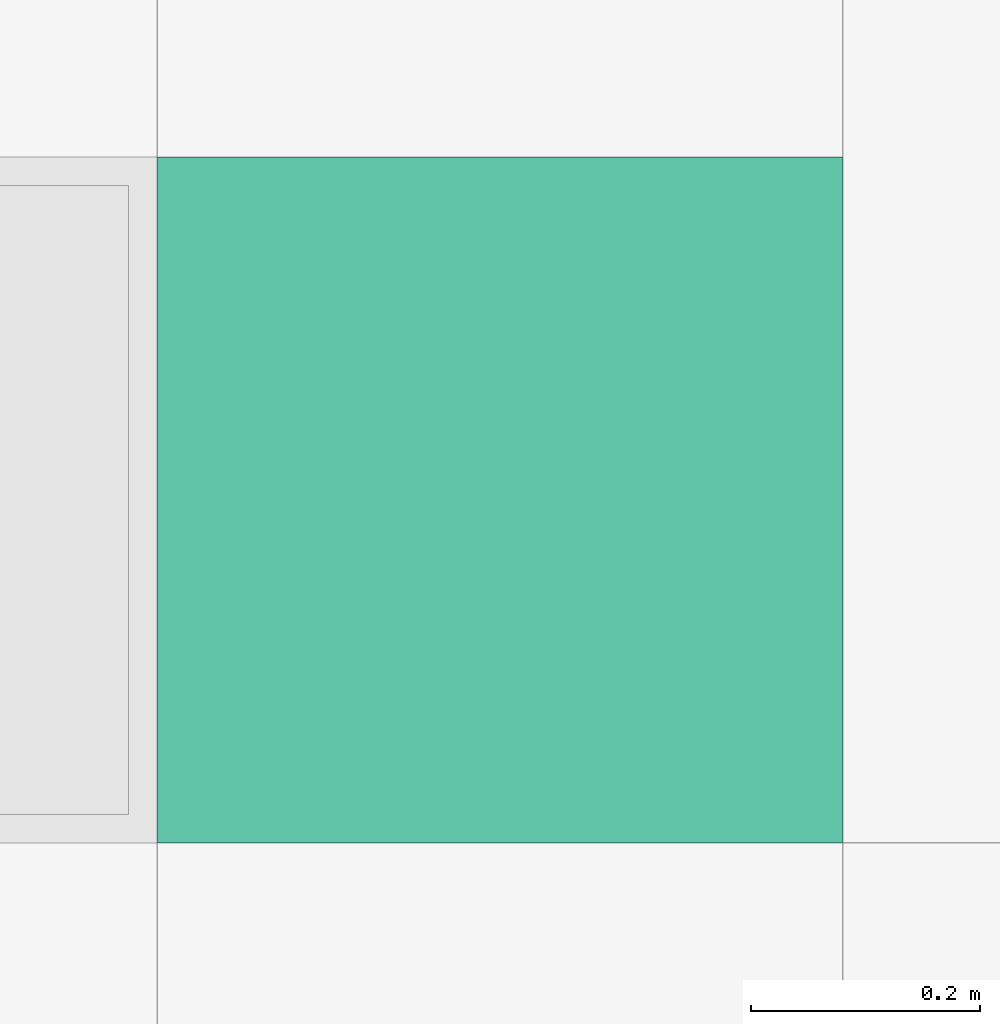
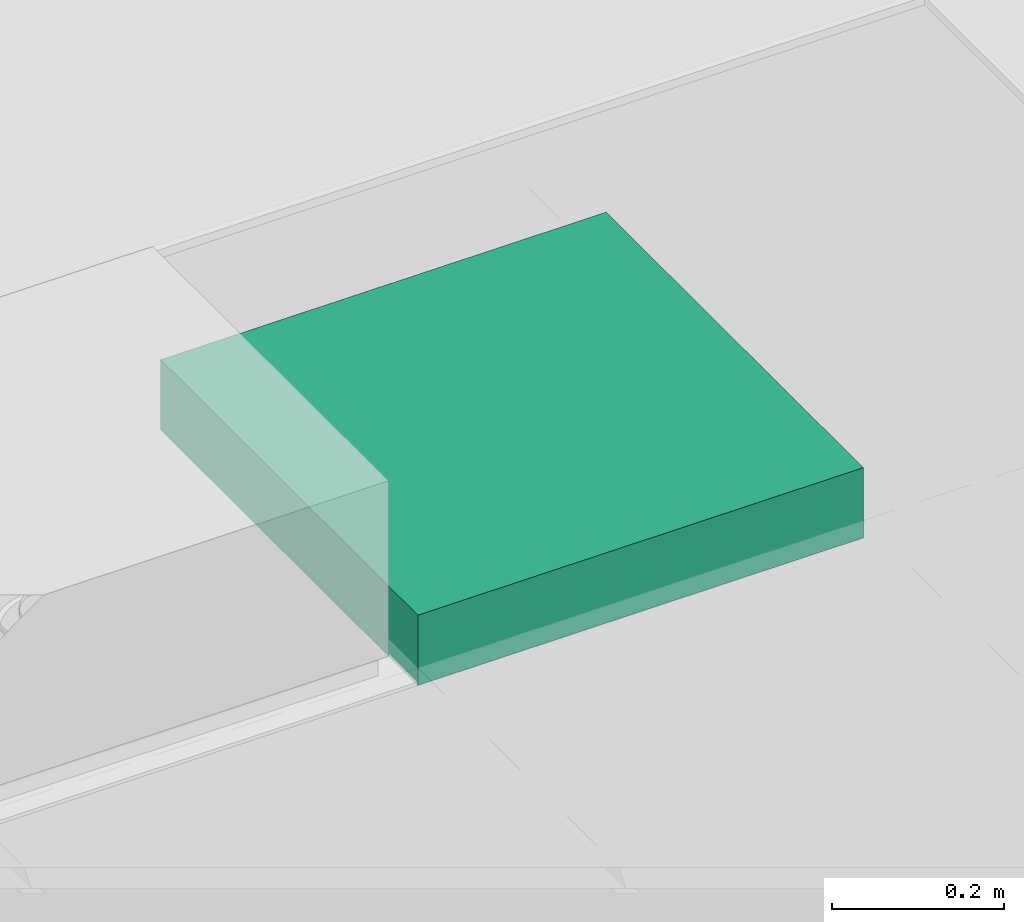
# One storey, part 299 of 347: 1 flow terminal.
"""IFC2X3 building model written with IfcOpenShell, lengths in millimetres."""

import ifcopenshell
import ifcopenshell.guid

model = None  # the IFC model being written
_history = None  # IfcOwnerHistory: only IFC2X3 demands one
_inside = {}  # id of a spatial element -> (the spatial element, [elements in it])
_under = {}  # id of a project, library or spatial element -> (it, [spatial elements below it])
_declared = {}  # id of a project -> (the project, [libraries it declares])
_typed = {}  # id of a type object -> (the type object, [elements of that type])
_made_of = {}  # id of a material, layer set ... -> (it, [elements and type objects made of it])


def new_model(schema):
    """Start an empty IFC model of exactly this schema.

    Asked for "IFC4X3", IfcOpenShell would pick the latest addendum, in which some entities
    have other attributes; the version numbers below select the first issue.
    IFC2X3 requires an IfcOwnerHistory on every rooted entity: one is made here for all.
    """
    global model, _history
    if schema == "IFC4X3":
        model = ifcopenshell.file(schema_version=(4, 3, 0, 0))
    else:
        model = ifcopenshell.file(schema=schema)
    _inside.clear()
    _under.clear()
    _declared.clear()
    _typed.clear()
    _made_of.clear()
    _history = None
    if model.schema == "IFC2X3":
        org = make("IfcOrganization", Name="unknown")
        user = make(
            "IfcPersonAndOrganization",
            ThePerson=make("IfcPerson", FamilyName="unknown"),
            TheOrganization=org,
        )
        app = make(
            "IfcApplication",
            ApplicationDeveloper=org,
            Version="unknown",
            ApplicationFullName="unknown",
            ApplicationIdentifier="unknown",
        )
        _history = make(
            "IfcOwnerHistory",
            OwningUser=user,
            OwningApplication=app,
            ChangeAction="ADDED",
            CreationDate=0,
        )
    return model


def make(cls, **values):
    """One entity of the class cls with the attributes given. An attribute that is None is left unset."""
    return model.create_entity(
        cls, **{name: value for name, value in values.items() if value is not None}
    )


def entity(cls, *values):
    """Any entity or typed value of the class cls, its attributes in the order of the schema. None: left unset."""
    e = model.create_entity(cls)
    for i, value in enumerate(values):
        if value is not None:
            e[i] = value
    return e


def rooted(cls, **values):
    """An entity with a GlobalId (a new one), such as an element, a storey or a relation."""
    return make(cls, GlobalId=ifcopenshell.guid.new(), OwnerHistory=_history, **values)


def si_unit(unit_type, name, prefix=None):
    """IfcSIUnit, for example si_unit("LENGTHUNIT", "METRE", prefix="MILLI")."""
    return make("IfcSIUnit", UnitType=unit_type, Prefix=prefix, Name=name)


def converted_unit(unit_type, name, factor, base, dimensions=None, offset=None):
    """IfcConversionBasedUnit, such as the inch: factor (a typed value) times the base unit."""
    return make(
        "IfcConversionBasedUnit"
        if offset is None
        else "IfcConversionBasedUnitWithOffset",
        ConversionOffset=offset,
        Dimensions=None
        if dimensions is None
        else entity("IfcDimensionalExponents", *dimensions),
        UnitType=unit_type,
        Name=name,
        ConversionFactor=make(
            "IfcMeasureWithUnit", ValueComponent=factor, UnitComponent=base
        ),
    )


def derived_unit(unit_type, elements):
    """IfcDerivedUnit: a product of units, each with its exponent."""
    return make(
        "IfcDerivedUnit",
        Elements=[
            make("IfcDerivedUnitElement", Unit=unit, Exponent=power)
            for unit, power in elements
        ],
        UnitType=unit_type,
    )


def money_unit(currency):
    """IfcMonetaryUnit."""
    return make("IfcMonetaryUnit", Currency=currency)


def assignment(units):
    """IfcUnitAssignment: the units of a project."""
    return None if units is None else make("IfcUnitAssignment", Units=units)


def point(xyz):
    """IfcCartesianPoint."""
    return None if xyz is None else make("IfcCartesianPoint", Coordinates=xyz)


def direction(xyz):
    """IfcDirection."""
    return None if xyz is None else make("IfcDirection", DirectionRatios=xyz)


def frame(location, z_axis=None, x_axis=None):
    """IfcAxis2Placement3D, a coordinate frame: its origin and axes. An axis left out is left unset."""
    return make(
        "IfcAxis2Placement3D",
        Location=point(location),
        Axis=direction(z_axis),
        RefDirection=direction(x_axis),
    )


def origin_with_axes():
    """The frame at (0, 0, 0) with the z axis (0, 0, 1) and the x axis (1, 0, 0) written out."""
    return frame((0.0, 0.0, 0.0), z_axis=(0.0, 0.0, 1.0), x_axis=(1.0, 0.0, 0.0))


def place(relative_to, where):
    """IfcLocalPlacement: puts the frame where relative to a parent placement (None: the world)."""
    return make(
        "IfcLocalPlacement", PlacementRelTo=relative_to, RelativePlacement=where
    )


def context(
    kind, dimensions, precision=None, world=None, true_north=None, identifier=None
):
    """IfcGeometricRepresentationContext, for example the 3D "Model" context."""
    return make(
        "IfcGeometricRepresentationContext",
        ContextIdentifier=identifier,
        ContextType=kind,
        CoordinateSpaceDimension=dimensions,
        Precision=precision,
        WorldCoordinateSystem=world,
        TrueNorth=true_north,
    )


def subcontext(parent, identifier, kind, view, scale=None):
    """IfcGeometricRepresentationSubContext, for example "Body" below "Model"."""
    return make(
        "IfcGeometricRepresentationSubContext",
        ContextIdentifier=identifier,
        ContextType=kind,
        ParentContext=parent,
        TargetScale=scale,
        TargetView=view,
    )


def project(units=None, contexts=None):
    """IfcProject with its units and contexts."""
    return rooted(
        "IfcProject",
        Name="project",
        RepresentationContexts=contexts,
        UnitsInContext=assignment(units),
    )


def spatial(cls, under=None, at=None, **own):
    """A site, building, storey or space (cls), placed at a placement, below another one or the project."""
    s = rooted(cls, ObjectPlacement=at, **own)
    if under is not None:
        _under.setdefault(under.id(), (under, []))[1].append(s)
    return s


def faces_of(points, faces, orient=None, outer=None):
    """IfcFace entities. A face is a list of loops; a loop is a list of indices into points, from 0.

    orient and outer hold one flag for each loop. By default every Orientation is true, the
    first loop of a face is its IfcFaceOuterBound and the others are IfcFaceBound.
    """
    made = []
    for i, loops in enumerate(faces):
        bounds = []
        for j, loop in enumerate(loops):
            is_outer = j == 0 if outer is None else outer[i][j]
            bounds.append(
                make(
                    "IfcFaceOuterBound" if is_outer else "IfcFaceBound",
                    Bound=make("IfcPolyLoop", Polygon=[points[k] for k in loop]),
                    Orientation=True if orient is None else orient[i][j],
                )
            )
        made.append(make("IfcFace", Bounds=bounds))
    return made


def open_shell(faces, orient=None, outer=None):
    """The faces of one IfcOpenShell. surface_model builds it on its shared points."""
    return ("IfcOpenShell", faces, orient, outer)


def faceted_brep(points, faces, orient=None, outer=None, voids=None):
    """IfcFacetedBrep: a solid bounded by flat faces; with voids (closed shells), ...WithVoids."""
    shared = [point(p) for p in points]
    hull = make("IfcClosedShell", CfsFaces=faces_of(shared, faces, orient, outer))
    if voids is None:
        return make("IfcFacetedBrep", Outer=hull)
    return make(
        "IfcFacetedBrepWithVoids",
        Outer=hull,
        Voids=[
            make(cls, CfsFaces=faces_of(shared, fs, o, b)) for cls, fs, o, b in voids
        ],
    )


def surface_model(cls, points, shells):
    """IfcFaceBasedSurfaceModel or IfcShellBasedSurfaceModel (cls): surfaces that need not close."""
    shared = [point(p) for p in points]
    made = [make(c, CfsFaces=faces_of(shared, fs, o, b)) for c, fs, o, b in shells]
    if cls == "IfcFaceBasedSurfaceModel":
        return make(cls, FbsmFaces=made)
    return make(cls, SbsmBoundary=made)


def shape(context_of_items, identifier, shape_type, items):
    """IfcShapeRepresentation: the items that make up one representation, for example the "Body"."""
    return make(
        "IfcShapeRepresentation",
        ContextOfItems=context_of_items,
        RepresentationIdentifier=identifier,
        RepresentationType=shape_type,
        Items=items,
    )


def source(mapping_origin, context_of_items, identifier, shape_type, items):
    """IfcRepresentationMap: a shape defined once, which mapped items show again and again."""
    return make(
        "IfcRepresentationMap",
        MappingOrigin=mapping_origin,
        MappedRepresentation=shape(context_of_items, identifier, shape_type, items),
    )


def transform(
    local_origin,
    x_axis=None,
    y_axis=None,
    z_axis=None,
    scale=None,
    scale2=None,
    scale3=None,
    uniform=True,
):
    """IfcCartesianTransformationOperator3D, or its non-uniform kind. x_axis, y_axis, z_axis: its Axis1, 2, 3."""
    if uniform:
        return make(
            "IfcCartesianTransformationOperator3D",
            Axis1=direction(x_axis),
            Axis2=direction(y_axis),
            LocalOrigin=point(local_origin),
            Scale=scale,
            Axis3=direction(z_axis),
        )
    return make(
        "IfcCartesianTransformationOperator3DnonUniform",
        Axis1=direction(x_axis),
        Axis2=direction(y_axis),
        LocalOrigin=point(local_origin),
        Scale=scale,
        Axis3=direction(z_axis),
        Scale2=scale2,
        Scale3=scale3,
    )


def mapped(mapping_source, mapping_target):
    """IfcMappedItem: shows the shape of a source again, moved by a transform."""
    return make(
        "IfcMappedItem", MappingSource=mapping_source, MappingTarget=mapping_target
    )


def made_of(thing, what):
    """Note that an element or type object is made of a material, layer set ...; save() writes the relation."""
    if what is not None:
        _made_of.setdefault(what.id(), (what, []))[1].append(thing)
    return thing


def type_object(cls, material=None, **own):
    """A type object (cls), such as IfcWallType, which elements share."""
    return made_of(rooted(cls, **own), material)


def type_shapes(of_type, sources):
    """Give a type object the sources (RepresentationMaps) that its elements show as mapped items."""
    of_type.RepresentationMaps = sources


def element(
    cls,
    number,
    at=None,
    inside=None,
    cuts=None,
    type_object=None,
    material=None,
    context=None,
    identifier="Body",
    shape_type=None,
    held_by="IfcProductDefinitionShape",
    body=None,
    shapes=None,
    **own,
):
    """One element of the class cls, such as IfcWall. Its Tag is "e" and its number.

    at: its placement. inside: the storey or other place that contains it. cuts: it is an
    opening in that element (IfcRelVoidsElement). A single representation is given by context,
    identifier, shape_type and body (its items); several are given by shapes. held_by: the class
    of the entity that holds the representations. save() writes the other relations.
    """
    e = rooted(cls, Tag="e%d" % number, ObjectPlacement=at, **own)
    if body is not None:
        shapes = [shape(context, identifier, shape_type, body)]
    if shapes is not None:
        e.Representation = make(held_by, Representations=shapes)
    if inside is not None:
        _inside.setdefault(inside.id(), (inside, []))[1].append(e)
    if cuts is not None:
        rooted(
            "IfcRelVoidsElement", RelatingBuildingElement=cuts, RelatedOpeningElement=e
        )
    if type_object is not None:
        _typed.setdefault(type_object.id(), (type_object, []))[1].append(e)
    return made_of(e, material)


def aggregate(whole, parts):
    """IfcRelAggregates: a whole, such as a stair, and the parts it consists of."""
    return rooted("IfcRelAggregates", RelatingObject=whole, RelatedObjects=parts)


def save(model, path):
    """Write the relations noted so far, then the file.

    IfcRelAggregates (storeys below a building ...), IfcRelContainedInSpatialStructure (elements
    in a storey), IfcRelDefinesByType, IfcRelAssociatesMaterial and IfcRelDeclares: one each for
    every whole, place, type object, material and project.
    """
    for whole, parts in _under.values():
        aggregate(whole, parts)
    for where, things in _inside.values():
        rooted(
            "IfcRelContainedInSpatialStructure",
            RelatedElements=things,
            RelatingStructure=where,
        )
    for kind, things in _typed.values():
        rooted("IfcRelDefinesByType", RelatedObjects=things, RelatingType=kind)
    for what, things in _made_of.values():
        rooted("IfcRelAssociatesMaterial", RelatedObjects=things, RelatingMaterial=what)
    for by, libraries in _declared.values():
        rooted("IfcRelDeclares", RelatingContext=by, RelatedDefinitions=libraries)
    model.write(path)


model = new_model("IFC2X3")

# Units and contexts
model_context = context("Model", 3, precision=0.01, world=origin_with_axes(), true_north=direction((0.0, 1.0)))
plan_context = context("Plan", 3, precision=0.01, world=origin_with_axes(), true_north=direction((0.0, 1.0)))
body_context = subcontext(model_context, "Body", "Model", "MODEL_VIEW")
ifc_project = project(units=[si_unit("LENGTHUNIT", "METRE", prefix="MILLI"), si_unit("AREAUNIT", "SQUARE_METRE"), si_unit("VOLUMEUNIT", "CUBIC_METRE"), converted_unit("PLANEANGLEUNIT", "DEGREE", entity("IfcPlaneAngleMeasure", 0.0174532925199), si_unit("PLANEANGLEUNIT", "RADIAN"), dimensions=[0, 0, 0, 0, 0, 0, 0]), money_unit("EUR"), converted_unit("TIMEUNIT", "Year", entity("IfcTimeMeasure", 31556926.0), si_unit("TIMEUNIT", "SECOND"), dimensions=[0, 0, 1, 0, 0, 0, 0]), si_unit("MASSUNIT", "GRAM", prefix="KILO"), si_unit("THERMODYNAMICTEMPERATUREUNIT", "DEGREE_CELSIUS"), si_unit("LUMINOUSINTENSITYUNIT", "LUMEN"), si_unit("ENERGYUNIT", "JOULE", prefix="MEGA"), derived_unit("THERMALCONDUCTANCEUNIT", [(si_unit("POWERUNIT", "WATT"), 1), (si_unit("LENGTHUNIT", "METRE"), -1), (si_unit("THERMODYNAMICTEMPERATUREUNIT", "KELVIN"), -1)]), derived_unit("SPECIFICHEATCAPACITYUNIT", [(si_unit("ENERGYUNIT", "JOULE"), 1), (si_unit("MASSUNIT", "GRAM", prefix="KILO"), -1), (si_unit("THERMODYNAMICTEMPERATUREUNIT", "KELVIN"), -1)]), derived_unit("MASSDENSITYUNIT", [(si_unit("MASSUNIT", "GRAM", prefix="KILO"), 1), (si_unit("VOLUMEUNIT", "CUBIC_METRE"), -1)])], contexts=[model_context, plan_context])

# Site, building, storey
site_placement = place(None, origin_with_axes())
site = spatial("IfcSite", under=ifc_project, at=site_placement, Name="Site", CompositionType="ELEMENT")
building_placement = place(site_placement, origin_with_axes())
building = spatial("IfcBuilding", under=site, at=building_placement, Name="Naam gebouw", CompositionType="ELEMENT")
storey_placement = place(building_placement, origin_with_axes())
storey = spatial("IfcBuildingStorey", under=building, at=storey_placement, Name="begane grond", CompositionType="ELEMENT", Elevation=0.0)

# Flow terminal
lamp_type = type_object("IfcLampType", Name="TL plafond 25", PredefinedType="NOTDEFINED")
shared_shape = source(origin_with_axes(), body_context, "Body", "SurfaceModel", [
    faceted_brep([(0.0, 0.0, -100.0), (0.0, 0.0, 0.0), (-600.0, 0.0, 0.0), (-600.0, 0.0, -100.0), (0.0, 600.0, -100.0), (0.0, 600.0, 0.0), (-600.0, 600.0, 0.0), (-40.0, 40.0, 0.0), (-560.0, 40.0, 0.0), (-560.0, 560.0, 0.0), (-40.0, 560.0, 0.0), (-600.0, 600.0, -100.0), (-40.0, 40.0, -100.0), (-40.0, 560.0, -100.0), (-560.0, 560.0, -100.0), (-560.0, 40.0, -100.0)], [[[0, 1, 2, 3]], [[4, 5, 1, 0]], [[1, 5, 6, 2], [7, 8, 9, 10]], [[3, 2, 6, 11]], [[0, 3, 11, 4], [12, 13, 14, 15]], [[11, 6, 5, 4]], [[15, 8, 7, 12]], [[14, 9, 8, 15]], [[13, 10, 9, 14]], [[12, 7, 10, 13]]]),
    faceted_brep([(-40.0, 40.0, -16.3333333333), (-40.0, 40.0, 0.0), (-560.0, 40.0, 0.0), (-560.0, 40.0, -16.3333333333), (-40.0, 560.0, -16.3333333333), (-40.0, 560.0, 0.0), (-560.0, 560.0, 0.0), (-560.0, 560.0, -16.3333333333)], [[[0, 1, 2, 3]], [[4, 5, 1, 0]], [[1, 5, 6, 2]], [[3, 2, 6, 7]], [[0, 3, 7, 4]], [[7, 6, 5, 4]]]),
    surface_model("IfcShellBasedSurfaceModel", [(-559.0, 41.0, -100.0), (-559.0, 559.0, -100.0), (-40.0, 559.0, -100.0), (-40.0, 41.0, -100.0)], [open_shell([[[0, 1, 2, 3]]])]),
    faceted_brep([(-40.0, 40.0, -100.0), (-40.0, 40.0, -60.0), (-560.0, 40.0, -60.0), (-560.0, 40.0, -100.0), (-40.0, 560.0, -100.0), (-40.0, 560.0, -60.0), (-560.0, 560.0, -60.0), (-41.0, 41.0, -60.0), (-559.0, 41.0, -60.0), (-559.0, 559.0, -60.0), (-41.0, 559.0, -60.0), (-560.0, 560.0, -100.0), (-41.0, 41.0, -100.0), (-41.0, 559.0, -100.0), (-559.0, 559.0, -100.0), (-559.0, 41.0, -100.0)], [[[0, 1, 2, 3]], [[4, 5, 1, 0]], [[1, 5, 6, 2], [7, 8, 9, 10]], [[3, 2, 6, 11]], [[0, 3, 11, 4], [12, 13, 14, 15]], [[11, 6, 5, 4]], [[15, 8, 7, 12]], [[14, 9, 8, 15]], [[13, 10, 9, 14]], [[12, 7, 10, 13]]]),
    faceted_brep([(-40.0, 144.0, -48.3333333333), (-560.0, 144.0, -48.3333333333), (-560.0, 149.740251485, -47.191526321), (-40.0, 149.740251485, -47.191526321), (-40.0, 138.259748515, -47.191526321), (-560.0, 138.259748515, -47.191526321), (-560.0, 133.393398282, -43.9399350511), (-560.0, 130.141807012, -39.0735848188), (-560.0, 129.0, -33.3333333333), (-560.0, 130.141807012, -27.5930818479), (-560.0, 133.393398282, -22.7267316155), (-560.0, 138.259748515, -19.4751403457), (-560.0, 144.0, -18.3333333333), (-560.0, 149.740251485, -19.4751403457), (-560.0, 154.606601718, -22.7267316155), (-560.0, 157.858192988, -27.5930818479), (-560.0, 159.0, -33.3333333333), (-560.0, 157.858192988, -39.0735848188), (-560.0, 154.606601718, -43.9399350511), (-560.0, 144.0, -46.3333333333), (-560.0, 148.974884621, -45.343767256), (-560.0, 153.192388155, -42.5257214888), (-560.0, 156.010433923, -38.3082179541), (-560.0, 157.0, -33.3333333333), (-560.0, 156.010433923, -28.3584487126), (-560.0, 153.192388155, -24.1409451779), (-560.0, 148.974884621, -21.3228994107), (-560.0, 144.0, -20.3333333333), (-560.0, 139.025115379, -21.3228994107), (-560.0, 134.807611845, -24.1409451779), (-560.0, 131.989566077, -28.3584487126), (-560.0, 131.0, -33.3333333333), (-560.0, 131.989566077, -38.3082179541), (-560.0, 134.807611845, -42.5257214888), (-560.0, 139.025115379, -45.343767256), (-40.0, 154.606601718, -43.9399350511), (-40.0, 157.858192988, -39.0735848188), (-40.0, 159.0, -33.3333333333), (-40.0, 157.858192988, -27.5930818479), (-40.0, 154.606601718, -22.7267316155), (-40.0, 149.740251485, -19.4751403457), (-40.0, 144.0, -18.3333333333), (-40.0, 138.259748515, -19.4751403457), (-40.0, 133.393398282, -22.7267316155), (-40.0, 130.141807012, -27.5930818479), (-40.0, 129.0, -33.3333333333), (-40.0, 130.141807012, -39.0735848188), (-40.0, 133.393398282, -43.9399350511), (-40.0, 144.0, -46.3333333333), (-40.0, 139.025115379, -45.343767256), (-40.0, 134.807611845, -42.5257214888), (-40.0, 131.989566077, -38.3082179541), (-40.0, 131.0, -33.3333333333), (-40.0, 131.989566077, -28.3584487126), (-40.0, 134.807611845, -24.1409451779), (-40.0, 139.025115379, -21.3228994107), (-40.0, 144.0, -20.3333333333), (-40.0, 148.974884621, -21.3228994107), (-40.0, 153.192388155, -24.1409451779), (-40.0, 156.010433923, -28.3584487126), (-40.0, 157.0, -33.3333333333), (-40.0, 156.010433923, -38.3082179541), (-40.0, 153.192388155, -42.5257214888), (-40.0, 148.974884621, -45.343767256)], [[[0, 1, 2, 3]], [[4, 5, 1, 0]], [[1, 5, 6, 7, 8, 9, 10, 11, 12, 13, 14, 15, 16, 17, 18, 2], [19, 20, 21, 22, 23, 24, 25, 26, 27, 28, 29, 30, 31, 32, 33, 34]], [[3, 2, 18, 35]], [[0, 3, 35, 36, 37, 38, 39, 40, 41, 42, 43, 44, 45, 46, 47, 4], [48, 49, 50, 51, 52, 53, 54, 55, 56, 57, 58, 59, 60, 61, 62, 63]], [[47, 6, 5, 4]], [[46, 7, 6, 47]], [[45, 8, 7, 46]], [[44, 9, 8, 45]], [[43, 10, 9, 44]], [[42, 11, 10, 43]], [[41, 12, 11, 42]], [[40, 13, 12, 41]], [[39, 14, 13, 40]], [[38, 15, 14, 39]], [[37, 16, 15, 38]], [[36, 17, 16, 37]], [[35, 18, 17, 36]], [[63, 20, 19, 48]], [[62, 21, 20, 63]], [[61, 22, 21, 62]], [[60, 23, 22, 61]], [[59, 24, 23, 60]], [[58, 25, 24, 59]], [[57, 26, 25, 58]], [[56, 27, 26, 57]], [[55, 28, 27, 56]], [[54, 29, 28, 55]], [[53, 30, 29, 54]], [[52, 31, 30, 53]], [[51, 32, 31, 52]], [[50, 33, 32, 51]], [[49, 34, 33, 50]], [[48, 19, 34, 49]]]),
    faceted_brep([(-40.0, 248.0, -48.3333333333), (-560.0, 248.0, -48.3333333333), (-560.0, 253.740251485, -47.191526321), (-40.0, 253.740251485, -47.191526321), (-40.0, 242.259748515, -47.191526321), (-560.0, 242.259748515, -47.191526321), (-560.0, 237.393398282, -43.9399350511), (-560.0, 234.141807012, -39.0735848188), (-560.0, 233.0, -33.3333333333), (-560.0, 234.141807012, -27.5930818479), (-560.0, 237.393398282, -22.7267316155), (-560.0, 242.259748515, -19.4751403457), (-560.0, 248.0, -18.3333333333), (-560.0, 253.740251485, -19.4751403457), (-560.0, 258.606601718, -22.7267316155), (-560.0, 261.858192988, -27.5930818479), (-560.0, 263.0, -33.3333333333), (-560.0, 261.858192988, -39.0735848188), (-560.0, 258.606601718, -43.9399350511), (-560.0, 248.0, -46.3333333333), (-560.0, 252.974884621, -45.343767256), (-560.0, 257.192388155, -42.5257214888), (-560.0, 260.010433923, -38.3082179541), (-560.0, 261.0, -33.3333333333), (-560.0, 260.010433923, -28.3584487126), (-560.0, 257.192388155, -24.1409451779), (-560.0, 252.974884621, -21.3228994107), (-560.0, 248.0, -20.3333333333), (-560.0, 243.025115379, -21.3228994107), (-560.0, 238.807611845, -24.1409451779), (-560.0, 235.989566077, -28.3584487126), (-560.0, 235.0, -33.3333333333), (-560.0, 235.989566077, -38.3082179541), (-560.0, 238.807611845, -42.5257214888), (-560.0, 243.025115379, -45.343767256), (-40.0, 258.606601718, -43.9399350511), (-40.0, 261.858192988, -39.0735848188), (-40.0, 263.0, -33.3333333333), (-40.0, 261.858192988, -27.5930818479), (-40.0, 258.606601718, -22.7267316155), (-40.0, 253.740251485, -19.4751403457), (-40.0, 248.0, -18.3333333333), (-40.0, 242.259748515, -19.4751403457), (-40.0, 237.393398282, -22.7267316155), (-40.0, 234.141807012, -27.5930818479), (-40.0, 233.0, -33.3333333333), (-40.0, 234.141807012, -39.0735848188), (-40.0, 237.393398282, -43.9399350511), (-40.0, 248.0, -46.3333333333), (-40.0, 243.025115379, -45.343767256), (-40.0, 238.807611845, -42.5257214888), (-40.0, 235.989566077, -38.3082179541), (-40.0, 235.0, -33.3333333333), (-40.0, 235.989566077, -28.3584487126), (-40.0, 238.807611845, -24.1409451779), (-40.0, 243.025115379, -21.3228994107), (-40.0, 248.0, -20.3333333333), (-40.0, 252.974884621, -21.3228994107), (-40.0, 257.192388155, -24.1409451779), (-40.0, 260.010433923, -28.3584487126), (-40.0, 261.0, -33.3333333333), (-40.0, 260.010433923, -38.3082179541), (-40.0, 257.192388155, -42.5257214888), (-40.0, 252.974884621, -45.343767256)], [[[0, 1, 2, 3]], [[4, 5, 1, 0]], [[1, 5, 6, 7, 8, 9, 10, 11, 12, 13, 14, 15, 16, 17, 18, 2], [19, 20, 21, 22, 23, 24, 25, 26, 27, 28, 29, 30, 31, 32, 33, 34]], [[3, 2, 18, 35]], [[0, 3, 35, 36, 37, 38, 39, 40, 41, 42, 43, 44, 45, 46, 47, 4], [48, 49, 50, 51, 52, 53, 54, 55, 56, 57, 58, 59, 60, 61, 62, 63]], [[47, 6, 5, 4]], [[46, 7, 6, 47]], [[45, 8, 7, 46]], [[44, 9, 8, 45]], [[43, 10, 9, 44]], [[42, 11, 10, 43]], [[41, 12, 11, 42]], [[40, 13, 12, 41]], [[39, 14, 13, 40]], [[38, 15, 14, 39]], [[37, 16, 15, 38]], [[36, 17, 16, 37]], [[35, 18, 17, 36]], [[63, 20, 19, 48]], [[62, 21, 20, 63]], [[61, 22, 21, 62]], [[60, 23, 22, 61]], [[59, 24, 23, 60]], [[58, 25, 24, 59]], [[57, 26, 25, 58]], [[56, 27, 26, 57]], [[55, 28, 27, 56]], [[54, 29, 28, 55]], [[53, 30, 29, 54]], [[52, 31, 30, 53]], [[51, 32, 31, 52]], [[50, 33, 32, 51]], [[49, 34, 33, 50]], [[48, 19, 34, 49]]]),
    faceted_brep([(-40.0, 352.0, -48.3333333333), (-560.0, 352.0, -48.3333333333), (-560.0, 357.740251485, -47.191526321), (-40.0, 357.740251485, -47.191526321), (-40.0, 346.259748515, -47.191526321), (-560.0, 346.259748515, -47.191526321), (-560.0, 341.393398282, -43.9399350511), (-560.0, 338.141807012, -39.0735848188), (-560.0, 337.0, -33.3333333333), (-560.0, 338.141807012, -27.5930818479), (-560.0, 341.393398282, -22.7267316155), (-560.0, 346.259748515, -19.4751403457), (-560.0, 352.0, -18.3333333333), (-560.0, 357.740251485, -19.4751403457), (-560.0, 362.606601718, -22.7267316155), (-560.0, 365.858192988, -27.5930818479), (-560.0, 367.0, -33.3333333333), (-560.0, 365.858192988, -39.0735848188), (-560.0, 362.606601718, -43.9399350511), (-560.0, 352.0, -46.3333333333), (-560.0, 356.974884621, -45.343767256), (-560.0, 361.192388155, -42.5257214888), (-560.0, 364.010433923, -38.3082179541), (-560.0, 365.0, -33.3333333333), (-560.0, 364.010433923, -28.3584487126), (-560.0, 361.192388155, -24.1409451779), (-560.0, 356.974884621, -21.3228994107), (-560.0, 352.0, -20.3333333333), (-560.0, 347.025115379, -21.3228994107), (-560.0, 342.807611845, -24.1409451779), (-560.0, 339.989566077, -28.3584487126), (-560.0, 339.0, -33.3333333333), (-560.0, 339.989566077, -38.3082179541), (-560.0, 342.807611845, -42.5257214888), (-560.0, 347.025115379, -45.343767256), (-40.0, 362.606601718, -43.9399350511), (-40.0, 365.858192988, -39.0735848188), (-40.0, 367.0, -33.3333333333), (-40.0, 365.858192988, -27.5930818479), (-40.0, 362.606601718, -22.7267316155), (-40.0, 357.740251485, -19.4751403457), (-40.0, 352.0, -18.3333333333), (-40.0, 346.259748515, -19.4751403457), (-40.0, 341.393398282, -22.7267316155), (-40.0, 338.141807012, -27.5930818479), (-40.0, 337.0, -33.3333333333), (-40.0, 338.141807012, -39.0735848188), (-40.0, 341.393398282, -43.9399350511), (-40.0, 352.0, -46.3333333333), (-40.0, 347.025115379, -45.343767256), (-40.0, 342.807611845, -42.5257214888), (-40.0, 339.989566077, -38.3082179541), (-40.0, 339.0, -33.3333333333), (-40.0, 339.989566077, -28.3584487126), (-40.0, 342.807611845, -24.1409451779), (-40.0, 347.025115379, -21.3228994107), (-40.0, 352.0, -20.3333333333), (-40.0, 356.974884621, -21.3228994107), (-40.0, 361.192388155, -24.1409451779), (-40.0, 364.010433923, -28.3584487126), (-40.0, 365.0, -33.3333333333), (-40.0, 364.010433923, -38.3082179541), (-40.0, 361.192388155, -42.5257214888), (-40.0, 356.974884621, -45.343767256)], [[[0, 1, 2, 3]], [[4, 5, 1, 0]], [[1, 5, 6, 7, 8, 9, 10, 11, 12, 13, 14, 15, 16, 17, 18, 2], [19, 20, 21, 22, 23, 24, 25, 26, 27, 28, 29, 30, 31, 32, 33, 34]], [[3, 2, 18, 35]], [[0, 3, 35, 36, 37, 38, 39, 40, 41, 42, 43, 44, 45, 46, 47, 4], [48, 49, 50, 51, 52, 53, 54, 55, 56, 57, 58, 59, 60, 61, 62, 63]], [[47, 6, 5, 4]], [[46, 7, 6, 47]], [[45, 8, 7, 46]], [[44, 9, 8, 45]], [[43, 10, 9, 44]], [[42, 11, 10, 43]], [[41, 12, 11, 42]], [[40, 13, 12, 41]], [[39, 14, 13, 40]], [[38, 15, 14, 39]], [[37, 16, 15, 38]], [[36, 17, 16, 37]], [[35, 18, 17, 36]], [[63, 20, 19, 48]], [[62, 21, 20, 63]], [[61, 22, 21, 62]], [[60, 23, 22, 61]], [[59, 24, 23, 60]], [[58, 25, 24, 59]], [[57, 26, 25, 58]], [[56, 27, 26, 57]], [[55, 28, 27, 56]], [[54, 29, 28, 55]], [[53, 30, 29, 54]], [[52, 31, 30, 53]], [[51, 32, 31, 52]], [[50, 33, 32, 51]], [[49, 34, 33, 50]], [[48, 19, 34, 49]]]),
    faceted_brep([(-40.0, 456.0, -48.3333333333), (-560.0, 456.0, -48.3333333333), (-560.0, 461.740251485, -47.191526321), (-40.0, 461.740251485, -47.191526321), (-40.0, 450.259748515, -47.191526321), (-560.0, 450.259748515, -47.191526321), (-560.0, 445.393398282, -43.9399350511), (-560.0, 442.141807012, -39.0735848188), (-560.0, 441.0, -33.3333333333), (-560.0, 442.141807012, -27.5930818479), (-560.0, 445.393398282, -22.7267316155), (-560.0, 450.259748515, -19.4751403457), (-560.0, 456.0, -18.3333333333), (-560.0, 461.740251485, -19.4751403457), (-560.0, 466.606601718, -22.7267316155), (-560.0, 469.858192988, -27.5930818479), (-560.0, 471.0, -33.3333333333), (-560.0, 469.858192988, -39.0735848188), (-560.0, 466.606601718, -43.9399350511), (-560.0, 456.0, -46.3333333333), (-560.0, 460.974884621, -45.343767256), (-560.0, 465.192388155, -42.5257214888), (-560.0, 468.010433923, -38.3082179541), (-560.0, 469.0, -33.3333333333), (-560.0, 468.010433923, -28.3584487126), (-560.0, 465.192388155, -24.1409451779), (-560.0, 460.974884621, -21.3228994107), (-560.0, 456.0, -20.3333333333), (-560.0, 451.025115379, -21.3228994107), (-560.0, 446.807611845, -24.1409451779), (-560.0, 443.989566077, -28.3584487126), (-560.0, 443.0, -33.3333333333), (-560.0, 443.989566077, -38.3082179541), (-560.0, 446.807611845, -42.5257214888), (-560.0, 451.025115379, -45.343767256), (-40.0, 466.606601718, -43.9399350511), (-40.0, 469.858192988, -39.0735848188), (-40.0, 471.0, -33.3333333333), (-40.0, 469.858192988, -27.5930818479), (-40.0, 466.606601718, -22.7267316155), (-40.0, 461.740251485, -19.4751403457), (-40.0, 456.0, -18.3333333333), (-40.0, 450.259748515, -19.4751403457), (-40.0, 445.393398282, -22.7267316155), (-40.0, 442.141807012, -27.5930818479), (-40.0, 441.0, -33.3333333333), (-40.0, 442.141807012, -39.0735848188), (-40.0, 445.393398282, -43.9399350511), (-40.0, 456.0, -46.3333333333), (-40.0, 451.025115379, -45.343767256), (-40.0, 446.807611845, -42.5257214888), (-40.0, 443.989566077, -38.3082179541), (-40.0, 443.0, -33.3333333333), (-40.0, 443.989566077, -28.3584487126), (-40.0, 446.807611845, -24.1409451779), (-40.0, 451.025115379, -21.3228994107), (-40.0, 456.0, -20.3333333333), (-40.0, 460.974884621, -21.3228994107), (-40.0, 465.192388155, -24.1409451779), (-40.0, 468.010433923, -28.3584487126), (-40.0, 469.0, -33.3333333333), (-40.0, 468.010433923, -38.3082179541), (-40.0, 465.192388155, -42.5257214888), (-40.0, 460.974884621, -45.343767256)], [[[0, 1, 2, 3]], [[4, 5, 1, 0]], [[1, 5, 6, 7, 8, 9, 10, 11, 12, 13, 14, 15, 16, 17, 18, 2], [19, 20, 21, 22, 23, 24, 25, 26, 27, 28, 29, 30, 31, 32, 33, 34]], [[3, 2, 18, 35]], [[0, 3, 35, 36, 37, 38, 39, 40, 41, 42, 43, 44, 45, 46, 47, 4], [48, 49, 50, 51, 52, 53, 54, 55, 56, 57, 58, 59, 60, 61, 62, 63]], [[47, 6, 5, 4]], [[46, 7, 6, 47]], [[45, 8, 7, 46]], [[44, 9, 8, 45]], [[43, 10, 9, 44]], [[42, 11, 10, 43]], [[41, 12, 11, 42]], [[40, 13, 12, 41]], [[39, 14, 13, 40]], [[38, 15, 14, 39]], [[37, 16, 15, 38]], [[36, 17, 16, 37]], [[35, 18, 17, 36]], [[63, 20, 19, 48]], [[62, 21, 20, 63]], [[61, 22, 21, 62]], [[60, 23, 22, 61]], [[59, 24, 23, 60]], [[58, 25, 24, 59]], [[57, 26, 25, 58]], [[56, 27, 26, 57]], [[55, 28, 27, 56]], [[54, 29, 28, 55]], [[53, 30, 29, 54]], [[52, 31, 30, 53]], [[51, 32, 31, 52]], [[50, 33, 32, 51]], [[49, 34, 33, 50]], [[48, 19, 34, 49]]]),
])
type_shapes(lamp_type, [shared_shape])
flow_terminal_placement = place(storey_placement, frame((54674.9999999, 45390.5011494, 3295.0), z_axis=(0.0, 0.0, 1.0), x_axis=(1.0, 0.0, 0.0)))
element("IfcFlowTerminal", 1, at=flow_terminal_placement, inside=storey, type_object=lamp_type, Name="63_Lamp-x", ObjectType="Lamp", context=body_context, shape_type="MappedRepresentation", body=[
    mapped(shared_shape, transform((0.0, 0.0, 0.0))),
])

save(model, "model.ifc")
